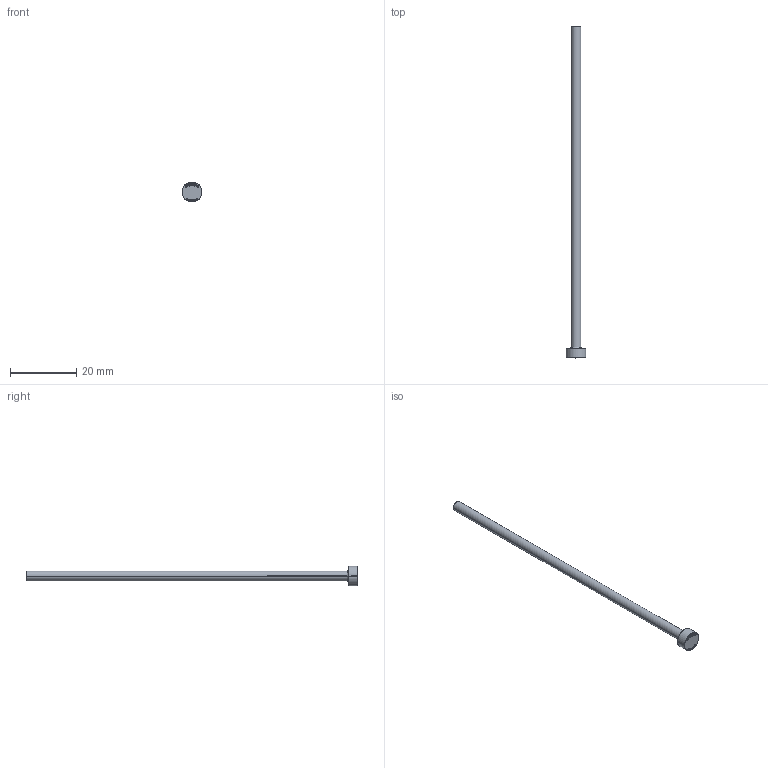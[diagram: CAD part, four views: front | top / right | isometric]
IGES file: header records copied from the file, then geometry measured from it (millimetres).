
Start section: SolidWorks IGES file using analytic representation for surfaces
Global section: file name: C:\Users\User\Downloads\Matripeça 31-08 tar\PB - PINO EXTRATOR TIPO _B_ (CATÁLOGO)\PB03,0\PB03,0100.IGS; native system: SolidWorks 2024; preprocessor: SolidWorks 2024; author: User; date: 260901.141333; units: millimetre
Bounding box: 6 x 100 x 6 mm (x, y, z)
Surface area: 1030.9 mm2 (no closed solid volume)
Topology: 0 solids, 0 shells, 399 faces, 3228 edges, 3228 vertices
Faces by surface type: bspline 385, revolution 14
